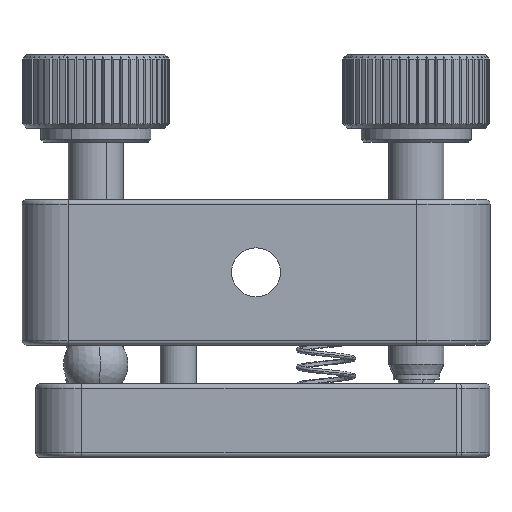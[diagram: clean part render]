
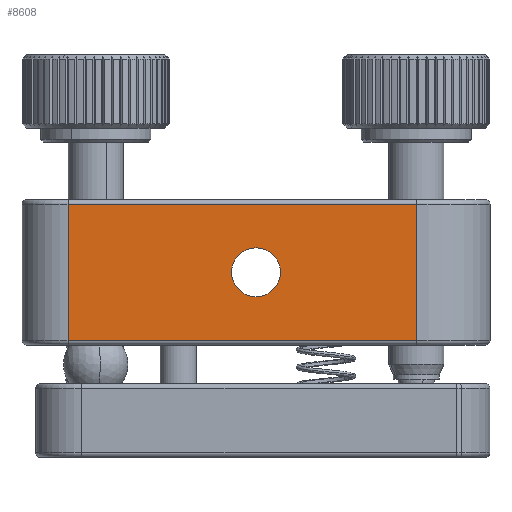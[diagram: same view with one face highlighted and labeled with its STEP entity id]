
A CAD part, front view. The second image highlights one B-rep face of the part: STEP entity #8608.
In plain terms, the highlighted planar face has unit normal (0, -1, 0).
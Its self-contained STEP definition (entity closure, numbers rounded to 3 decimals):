
#736 = ORIENTED_EDGE ( 'NONE', *, *, #17059, .T. ) ;
#1990 = EDGE_CURVE ( 'NONE', #14316, #16357, #24261, .T. ) ;
#2923 = CARTESIAN_POINT ( 'NONE',  ( 59.302, 27.866, -50.889 ) ) ;
#3195 = DIRECTION ( 'NONE',  ( 0., 1., 0. ) ) ;
#4179 = VERTEX_POINT ( 'NONE', #14490 ) ;
#4208 = DIRECTION ( 'NONE',  ( 1., 0., 0. ) ) ;
#4260 = ORIENTED_EDGE ( 'NONE', *, *, #1990, .F. ) ;
#5709 = CARTESIAN_POINT ( 'NONE',  ( 54.002, 27.866, -50.889 ) ) ;
#5813 = FACE_OUTER_BOUND ( 'NONE', #11204, .T. ) ;
#6157 = DIRECTION ( 'NONE',  ( 0., 0., -1. ) ) ;
#7820 = VECTOR ( 'NONE', #6157, 1000. ) ;
#7981 = ORIENTED_EDGE ( 'NONE', *, *, #25410, .F. ) ;
#8159 = VERTEX_POINT ( 'NONE', #27451 ) ;
#8608 = ADVANCED_FACE ( 'NONE', ( #29677, #5813 ), #16442, .F. ) ;
#9216 = AXIS2_PLACEMENT_3D ( 'NONE', #17458, #28079, #4208 ) ;
#9263 = LINE ( 'NONE', #19912, #20660 ) ;
#9534 = ORIENTED_EDGE ( 'NONE', *, *, #26384, .F. ) ;
#10500 = CARTESIAN_POINT ( 'NONE',  ( 36.252, 27.866, -43.489 ) ) ;
#10954 = CARTESIAN_POINT ( 'NONE',  ( 36.252, 27.866, -43.489 ) ) ;
#11204 = EDGE_LOOP ( 'NONE', ( #27384, #13513, #9534, #736 ) ) ;
#11658 = CARTESIAN_POINT ( 'NONE',  ( 56.652, 27.866, -50.889 ) ) ;
#12378 = LINE ( 'NONE', #23012, #31634 ) ;
#12412 = EDGE_CURVE ( 'NONE', #17953, #22967, #12378, .T. ) ;
#13513 = ORIENTED_EDGE ( 'NONE', *, *, #20306, .T. ) ;
#13821 = DIRECTION ( 'NONE',  ( -1., 0., 0. ) ) ;
#13887 = CIRCLE ( 'NONE', #18342, 2.65 ) ;
#14316 = VERTEX_POINT ( 'NONE', #5709 ) ;
#14490 = CARTESIAN_POINT ( 'NONE',  ( 74.052, 27.866, -43.489 ) ) ;
#16357 = VERTEX_POINT ( 'NONE', #2923 ) ;
#16442 = PLANE ( 'NONE',  #28762 ) ;
#17059 = EDGE_CURVE ( 'NONE', #4179, #17953, #34370, .T. ) ;
#17458 = CARTESIAN_POINT ( 'NONE',  ( 56.652, 27.866, -50.889 ) ) ;
#17953 = VERTEX_POINT ( 'NONE', #10954 ) ;
#18342 = AXIS2_PLACEMENT_3D ( 'NONE', #11658, #22300, #32912 ) ;
#19400 = LINE ( 'NONE', #30009, #7820 ) ;
#19782 = EDGE_LOOP ( 'NONE', ( #7981, #4260 ) ) ;
#19912 = CARTESIAN_POINT ( 'NONE',  ( 74.052, 27.866, -58.289 ) ) ;
#20306 = EDGE_CURVE ( 'NONE', #22967, #8159, #9263, .T. ) ;
#20660 = VECTOR ( 'NONE', #30522, 1000. ) ;
#21137 = DIRECTION ( 'NONE',  ( -1., 0., 0. ) ) ;
#22300 = DIRECTION ( 'NONE',  ( 0., -1., 0. ) ) ;
#22967 = VERTEX_POINT ( 'NONE', #26587 ) ;
#23012 = CARTESIAN_POINT ( 'NONE',  ( 36.252, 27.866, -42.989 ) ) ;
#23920 = VECTOR ( 'NONE', #21137, 1000. ) ;
#24261 = CIRCLE ( 'NONE', #9216, 2.65 ) ;
#25410 = EDGE_CURVE ( 'NONE', #16357, #14316, #13887, .T. ) ;
#26384 = EDGE_CURVE ( 'NONE', #4179, #8159, #19400, .T. ) ;
#26587 = CARTESIAN_POINT ( 'NONE',  ( 36.252, 27.866, -58.289 ) ) ;
#27070 = CARTESIAN_POINT ( 'NONE',  ( 74.052, 27.866, -42.989 ) ) ;
#27384 = ORIENTED_EDGE ( 'NONE', *, *, #12412, .T. ) ;
#27451 = CARTESIAN_POINT ( 'NONE',  ( 74.052, 27.866, -58.289 ) ) ;
#28079 = DIRECTION ( 'NONE',  ( 0., -1., 0. ) ) ;
#28762 = AXIS2_PLACEMENT_3D ( 'NONE', #27070, #3195, #13821 ) ;
#29677 = FACE_BOUND ( 'NONE', #19782, .T. ) ;
#30009 = CARTESIAN_POINT ( 'NONE',  ( 74.052, 27.866, -42.989 ) ) ;
#30522 = DIRECTION ( 'NONE',  ( 1., 0., 0. ) ) ;
#31634 = VECTOR ( 'NONE', #33628, 1000. ) ;
#32912 = DIRECTION ( 'NONE',  ( 1., 0., 0. ) ) ;
#33628 = DIRECTION ( 'NONE',  ( 0., 0., -1. ) ) ;
#34370 = LINE ( 'NONE', #10500, #23920 ) ;
